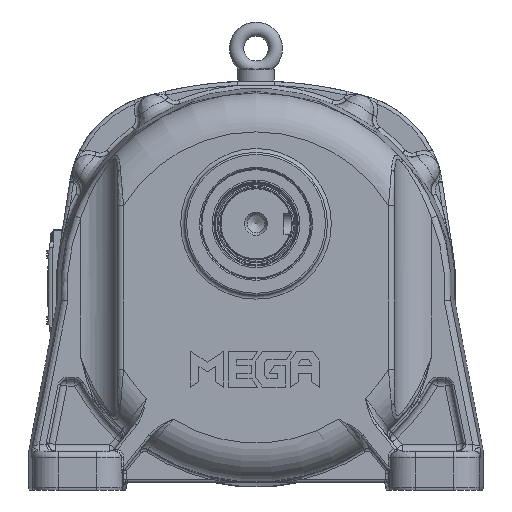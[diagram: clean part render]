
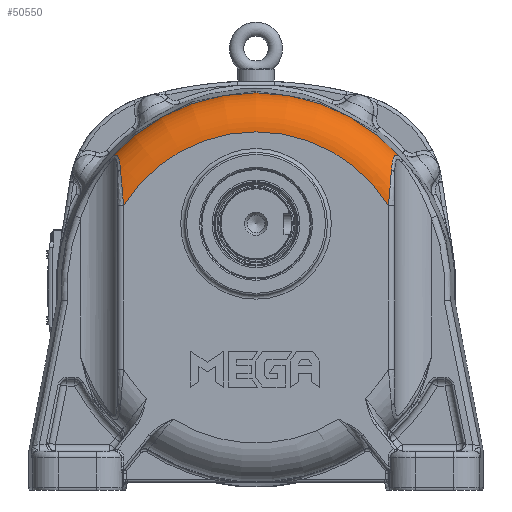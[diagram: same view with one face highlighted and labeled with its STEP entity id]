
A CAD part, front view. The second image highlights one B-rep face of the part: STEP entity #50550.
In plain terms, the highlighted toroidal (fillet/blend) face has major radius 119.862 mm and minor radius 30 mm.
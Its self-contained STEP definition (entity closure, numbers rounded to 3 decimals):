
#1344=TOROIDAL_SURFACE('',#54901,119.862,30.);
#3903=FACE_OUTER_BOUND('',#7029,.T.);
#7029=EDGE_LOOP('',(#37775,#37776,#37777,#37778,#37779,#37780));
#10203=CIRCLE('',#54895,149.849);
#10209=CIRCLE('',#54902,119.862);
#18331=B_SPLINE_CURVE_WITH_KNOTS('',3,(#88547,#88548,#88549,#88550,#88551),
 .UNSPECIFIED.,.F.,.F.,(4,1,4),(-2.599,-1.114,0.),
 .UNSPECIFIED.);
#18332=B_SPLINE_CURVE_WITH_KNOTS('',3,(#88600,#88601,#88602,#88603,#88604,
#88605,#88606,#88607,#88608),.UNSPECIFIED.,.F.,.F.,(4,1,1,1,1,1,4),(0.,
0.733,1.1,1.466,1.833,2.199,
2.566),.UNSPECIFIED.);
#18340=B_SPLINE_CURVE_WITH_KNOTS('',3,(#88770,#88771,#88772,#88773,#88774),
 .UNSPECIFIED.,.F.,.F.,(4,1,4),(-2.599,-1.114,0.),
 .UNSPECIFIED.);
#18341=B_SPLINE_CURVE_WITH_KNOTS('',3,(#88775,#88776,#88777,#88778,#88779,
#88780,#88781,#88782,#88783),.UNSPECIFIED.,.F.,.F.,(4,1,1,1,1,1,4),(-2.566,
-2.199,-1.833,-1.466,-1.1,
-0.733,0.),.UNSPECIFIED.);
#21361=VERTEX_POINT('',#88513);
#21362=VERTEX_POINT('',#88546);
#21363=VERTEX_POINT('',#88598);
#21369=VERTEX_POINT('',#88741);
#21374=VERTEX_POINT('',#88768);
#21375=VERTEX_POINT('',#88769);
#27149=EDGE_CURVE('',#21361,#21362,#18331,.T.);
#27152=EDGE_CURVE('',#21362,#21363,#18332,.T.);
#27161=EDGE_CURVE('',#21369,#21363,#10203,.T.);
#27170=EDGE_CURVE('',#21374,#21375,#18340,.T.);
#27171=EDGE_CURVE('',#21369,#21374,#18341,.T.);
#27172=EDGE_CURVE('',#21361,#21375,#10209,.T.);
#37775=ORIENTED_EDGE('',*,*,#27170,.F.);
#37776=ORIENTED_EDGE('',*,*,#27171,.F.);
#37777=ORIENTED_EDGE('',*,*,#27161,.T.);
#37778=ORIENTED_EDGE('',*,*,#27152,.F.);
#37779=ORIENTED_EDGE('',*,*,#27149,.F.);
#37780=ORIENTED_EDGE('',*,*,#27172,.T.);
#50550=ADVANCED_FACE('',(#3903),#1344,.T.);
#54895=AXIS2_PLACEMENT_3D('',#88742,#65261,#65262);
#54901=AXIS2_PLACEMENT_3D('',#88767,#65273,#65274);
#54902=AXIS2_PLACEMENT_3D('',#88784,#65275,#65276);
#65261=DIRECTION('center_axis',(0.,-1.,0.));
#65262=DIRECTION('ref_axis',(-1.,0.,0.));
#65273=DIRECTION('center_axis',(0.,1.,0.));
#65274=DIRECTION('ref_axis',(0.,0.,1.));
#65275=DIRECTION('center_axis',(0.,1.,0.));
#65276=DIRECTION('ref_axis',(-1.,0.,0.));
#88513=CARTESIAN_POINT('',(-114.691,-190.758,61.201));
#88546=CARTESIAN_POINT('',(-116.96,-184.758,88.438));
#88547=CARTESIAN_POINT('Ctrl Pts',(-114.691,-190.758,
61.201));
#88548=CARTESIAN_POINT('Ctrl Pts',(-115.134,-190.758,
66.424));
#88549=CARTESIAN_POINT('Ctrl Pts',(-115.925,-189.92,
75.713));
#88550=CARTESIAN_POINT('Ctrl Pts',(-116.667,-186.72,
84.778));
#88551=CARTESIAN_POINT('Ctrl Pts',(-116.96,-184.758,
88.438));
#88598=CARTESIAN_POINT('',(-124.637,-161.632,97.864));
#88600=CARTESIAN_POINT('Ctrl Pts',(-116.96,-184.758,
88.438));
#88601=CARTESIAN_POINT('Ctrl Pts',(-117.153,-183.466,
90.848));
#88602=CARTESIAN_POINT('Ctrl Pts',(-117.5,-181.104,94.328));
#88603=CARTESIAN_POINT('Ctrl Pts',(-118.415,-176.754,98.013));
#88604=CARTESIAN_POINT('Ctrl Pts',(-119.473,-172.871,
99.902));
#88605=CARTESIAN_POINT('Ctrl Pts',(-120.965,-168.703,
100.46));
#88606=CARTESIAN_POINT('Ctrl Pts',(-122.75,-164.842,
99.667));
#88607=CARTESIAN_POINT('Ctrl Pts',(-124.006,-162.643,
98.528));
#88608=CARTESIAN_POINT('Ctrl Pts',(-124.637,-161.632,
97.864));
#88741=CARTESIAN_POINT('',(99.254,-161.632,97.864));
#88742=CARTESIAN_POINT('Origin',(-12.691,-161.632,-1.75));
#88767=CARTESIAN_POINT('Origin',(-12.691,-160.758,-1.75));
#88768=CARTESIAN_POINT('',(91.578,-184.758,88.438));
#88769=CARTESIAN_POINT('',(89.309,-190.758,61.201));
#88770=CARTESIAN_POINT('Ctrl Pts',(91.578,-184.758,88.438));
#88771=CARTESIAN_POINT('Ctrl Pts',(91.187,-187.374,83.558));
#88772=CARTESIAN_POINT('Ctrl Pts',(90.427,-190.123,74.349));
#88773=CARTESIAN_POINT('Ctrl Pts',(89.641,-190.758,65.118));
#88774=CARTESIAN_POINT('Ctrl Pts',(89.309,-190.758,61.201));
#88775=CARTESIAN_POINT('Ctrl Pts',(99.254,-161.632,97.864));
#88776=CARTESIAN_POINT('Ctrl Pts',(98.624,-162.643,98.528));
#88777=CARTESIAN_POINT('Ctrl Pts',(97.367,-164.843,99.667));
#88778=CARTESIAN_POINT('Ctrl Pts',(95.583,-168.702,100.46));
#88779=CARTESIAN_POINT('Ctrl Pts',(94.09,-172.872,99.901));
#88780=CARTESIAN_POINT('Ctrl Pts',(93.033,-176.753,98.013));
#88781=CARTESIAN_POINT('Ctrl Pts',(92.117,-181.105,94.326));
#88782=CARTESIAN_POINT('Ctrl Pts',(91.771,-183.466,90.848));
#88783=CARTESIAN_POINT('Ctrl Pts',(91.578,-184.758,88.438));
#88784=CARTESIAN_POINT('Origin',(-12.691,-190.758,-1.75));
